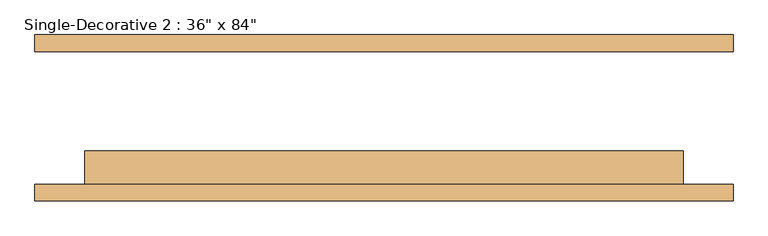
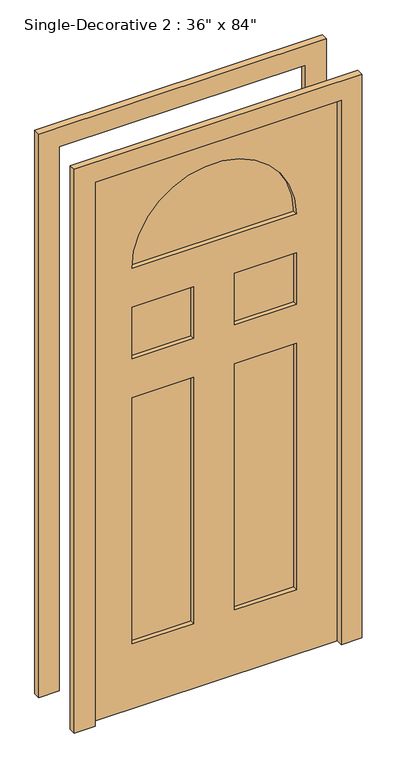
"""IFC4 building model written with IfcOpenShell, lengths in millimetres: door geometry."""

from ifc_helpers import new_model, si_unit, point, frame, frame_2d, origin, place, context, project, spatial, polyline, circle_curve, trimmed, segment, composite_curve, outline, extrude, source, transform, mapped, element, save


def door_23e61c23(model_context):
    return source(origin(), model_context, "Body", "SweptSolid", [
        extrude(outline(polyline([(0.0, -457.2), (0.0, 457.2), (2133.6, 457.2), (2133.6, -457.2), (0.0, -457.2)]), holes=[polyline([(254.0, -76.2), (254.0, -304.8), (1219.2, -304.8), (1219.2, -76.2), (254.0, -76.2)]), polyline([(254.0, 304.8), (254.0, 76.2), (1219.2, 76.2), (1219.2, 304.8), (254.0, 304.8)]), polyline([(1371.6, 76.2), (1574.8, 76.2), (1574.8, 304.8), (1371.6, 304.8), (1371.6, 76.2)]), polyline([(1371.6, -304.8), (1574.8, -304.8), (1574.8, -76.2), (1371.6, -76.2), (1371.6, -304.8)]), composite_curve([segment(polyline([(1727.2, 304.8), (1727.2, -304.8)]), True, "CONTINUOUS"), segment(trimmed(circle_curve(frame_2d((1727.2, 0.0)), 304.8), [point((1727.2, -304.8))], [point((1727.2, 304.8))], True, "CARTESIAN"), True, "CONTINUOUS")], self_intersect=False)]), frame((0.0, -101.6, 0.0), z_axis=(0.0, 1.0, 0.0), x_axis=(0.0, 0.0, 1.0)), (0.0, 0.0, 1.0), 50.8),
        extrude(outline(polyline([(0.0, 457.2), (0.0, 533.4), (2209.8, 533.4), (2209.8, -533.4), (0.0, -533.4), (0.0, -457.2), (2133.6, -457.2), (2133.6, 457.2), (0.0, 457.2)])), frame((0.0, 101.6, 0.0), z_axis=(0.0, 1.0, 0.0), x_axis=(0.0, 0.0, 1.0)), (0.0, 0.0, 1.0), 25.4),
        extrude(outline(polyline([(2209.8, -533.4), (0.0, -533.4), (0.0, -457.2), (2133.6, -457.2), (2133.6, 457.2), (0.0, 457.2), (0.0, 533.4), (2209.8, 533.4), (2209.8, -533.4)])), frame((0.0, -127.0, 0.0), z_axis=(0.0, 1.0, 0.0), x_axis=(0.0, 0.0, 1.0)), (0.0, 0.0, 1.0), 25.4),
        extrude(outline(composite_curve([segment(polyline([(1727.2, -304.8), (1727.2, 304.8)]), True, "CONTINUOUS"), segment(trimmed(circle_curve(frame_2d((1727.2, 0.0)), 304.8), [point((1727.2, 304.8))], [point((1727.2, -304.8))], False, "CARTESIAN"), True, "CONTINUOUS")], self_intersect=False)), frame((0.0, -84.6666667, 0.0), z_axis=(0.0, 1.0, 0.0), x_axis=(0.0, 0.0, 1.0)), (0.0, 0.0, 1.0), 16.9333333),
        extrude(outline(polyline([(-304.8, -84.6666667), (-304.8, -67.7333333), (-76.2, -67.7333333), (-76.2, -84.6666667), (-304.8, -84.6666667)])), frame((0.0, 0.0, 254.0), z_axis=(0.0, 0.0, 1.0), x_axis=(1.0, 0.0, 0.0)), (0.0, 0.0, 1.0), 965.2),
        extrude(outline(polyline([(76.2, -84.6666667), (76.2, -67.7333333), (304.8, -67.7333333), (304.8, -84.6666667), (76.2, -84.6666667)])), frame((0.0, 0.0, 254.0), z_axis=(0.0, 0.0, 1.0), x_axis=(1.0, 0.0, 0.0)), (0.0, 0.0, 1.0), 965.2),
        extrude(outline(polyline([(76.2, -84.6666667), (76.2, -67.7333333), (304.8, -67.7333333), (304.8, -84.6666667), (76.2, -84.6666667)])), frame((0.0, 0.0, 1371.6), z_axis=(0.0, 0.0, 1.0), x_axis=(1.0, 0.0, 0.0)), (0.0, 0.0, 1.0), 203.2),
        extrude(outline(polyline([(-304.8, -84.6666667), (-304.8, -67.7333333), (-76.2, -67.7333333), (-76.2, -84.6666667), (-304.8, -84.6666667)])), frame((0.0, 0.0, 1371.6), z_axis=(0.0, 0.0, 1.0), x_axis=(1.0, 0.0, 0.0)), (0.0, 0.0, 1.0), 203.2),
    ])


if __name__ == "__main__":
    model = new_model("IFC4")
    model_context = context("Model", 3, world=origin())
    ifc_project = project(units=[si_unit("LENGTHUNIT", "METRE", prefix="MILLI")], contexts=[model_context])
    site = spatial("IfcSite", under=ifc_project)
    building = spatial("IfcBuilding", under=site)
    placement = place(None, origin())
    door_shape = door_23e61c23(model_context)
    element("IfcDoor", 1, ObjectType="Single-Decorative 2 : 36\" x 84\"", at=placement, inside=building, context=model_context, shape_type="MappedRepresentation", body=[
        mapped(door_shape, transform((0.0, 0.0, 0.0), x_axis=(1.0, 0.0, 0.0), y_axis=(0.0, 1.0, 0.0), z_axis=(0.0, 0.0, 1.0))),
    ])
    save(model, "model.ifc")
